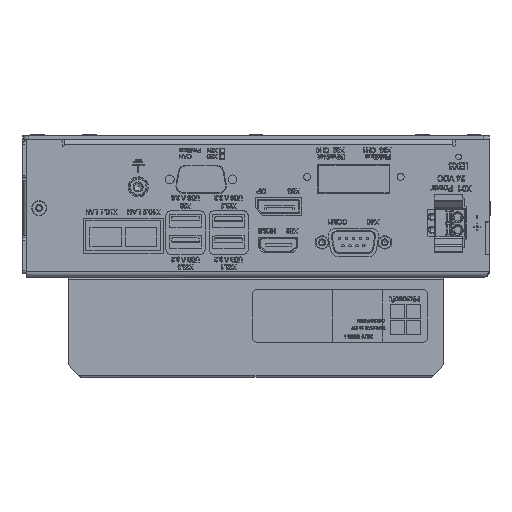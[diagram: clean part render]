
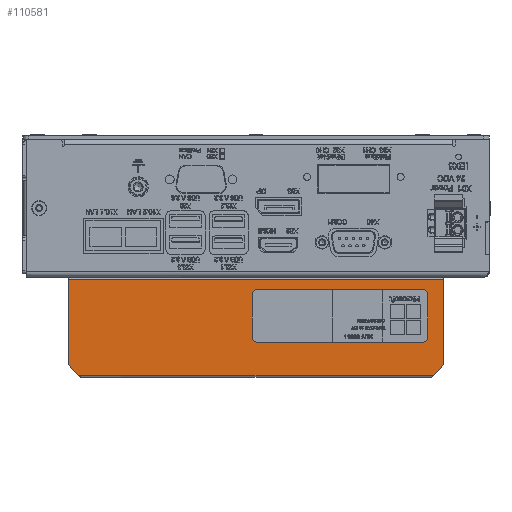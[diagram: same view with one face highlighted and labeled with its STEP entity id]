
A CAD part, front view. The second image highlights one B-rep face of the part: STEP entity #110581.
In plain terms, the highlighted planar face has unit normal (0, -1, 0).
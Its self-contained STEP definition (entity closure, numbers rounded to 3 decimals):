
#1646=FACE_BOUND('',#15456,.T.);
#3770=PLANE('',#117001);
#9152=FACE_OUTER_BOUND('',#15455,.T.);
#15455=EDGE_LOOP('',(#84791,#84792,#84793,#84794,#84795,#84796));
#15456=EDGE_LOOP('',(#84797,#84798,#84799,#84800,#84801,#84802,#84803,#84804));
#26806=LINE('',#165230,#37763);
#27250=LINE('',#167983,#38207);
#27253=LINE('',#167991,#38210);
#27257=LINE('',#168002,#38214);
#27261=LINE('',#168017,#38218);
#27290=LINE('',#168124,#38247);
#27324=LINE('',#168242,#38281);
#27392=LINE('',#168396,#38349);
#27394=LINE('',#168400,#38351);
#27395=LINE('',#168401,#38352);
#37763=VECTOR('',#130297,10.);
#38207=VECTOR('',#131049,10.);
#38210=VECTOR('',#131058,10.);
#38214=VECTOR('',#131072,10.);
#38218=VECTOR('',#131086,10.);
#38247=VECTOR('',#131173,10.);
#38281=VECTOR('',#131269,38.25);
#38349=VECTOR('',#131395,10.);
#38351=VECTOR('',#131399,10.);
#38352=VECTOR('',#131400,38.25);
#44715=CIRCLE('',#116900,2.);
#44716=CIRCLE('',#116903,2.);
#44717=CIRCLE('',#116905,2.);
#44718=CIRCLE('',#116908,2.);
#49688=VERTEX_POINT('',#165227);
#49689=VERTEX_POINT('',#165229);
#50069=VERTEX_POINT('',#167980);
#50070=VERTEX_POINT('',#167982);
#50071=VERTEX_POINT('',#167986);
#50072=VERTEX_POINT('',#167990);
#50073=VERTEX_POINT('',#167996);
#50074=VERTEX_POINT('',#168000);
#50076=VERTEX_POINT('',#168007);
#50080=VERTEX_POINT('',#168015);
#50127=VERTEX_POINT('',#168120);
#50129=VERTEX_POINT('',#168123);
#50182=VERTEX_POINT('',#168240);
#50240=VERTEX_POINT('',#168399);
#61901=EDGE_CURVE('',#49689,#49688,#26806,.T.);
#62521=EDGE_CURVE('',#50070,#50069,#27250,.T.);
#62523=EDGE_CURVE('',#49688,#50071,#44715,.T.);
#62525=EDGE_CURVE('',#50071,#50072,#27253,.T.);
#62527=EDGE_CURVE('',#50072,#50070,#44716,.T.);
#62529=EDGE_CURVE('',#50069,#50073,#44717,.T.);
#62531=EDGE_CURVE('',#50073,#50074,#27257,.T.);
#62532=EDGE_CURVE('',#50074,#49689,#44718,.T.);
#62538=EDGE_CURVE('',#50076,#50080,#27261,.T.);
#62586=EDGE_CURVE('',#50129,#50127,#27290,.T.);
#62641=EDGE_CURVE('',#50080,#50182,#27324,.T.);
#62727=EDGE_CURVE('',#50127,#50076,#27392,.T.);
#62729=EDGE_CURVE('',#50240,#50182,#27394,.T.);
#62730=EDGE_CURVE('',#50240,#50129,#27395,.T.);
#84791=ORIENTED_EDGE('',*,*,#62538,.T.);
#84792=ORIENTED_EDGE('',*,*,#62641,.T.);
#84793=ORIENTED_EDGE('',*,*,#62729,.F.);
#84794=ORIENTED_EDGE('',*,*,#62730,.T.);
#84795=ORIENTED_EDGE('',*,*,#62586,.T.);
#84796=ORIENTED_EDGE('',*,*,#62727,.T.);
#84797=ORIENTED_EDGE('',*,*,#62521,.T.);
#84798=ORIENTED_EDGE('',*,*,#62529,.T.);
#84799=ORIENTED_EDGE('',*,*,#62531,.T.);
#84800=ORIENTED_EDGE('',*,*,#62532,.T.);
#84801=ORIENTED_EDGE('',*,*,#61901,.T.);
#84802=ORIENTED_EDGE('',*,*,#62523,.T.);
#84803=ORIENTED_EDGE('',*,*,#62525,.T.);
#84804=ORIENTED_EDGE('',*,*,#62527,.T.);
#110581=ADVANCED_FACE('',(#9152,#1646),#3770,.T.);
#116900=AXIS2_PLACEMENT_3D('',#167987,#131053,#131054);
#116903=AXIS2_PLACEMENT_3D('',#167994,#131062,#131063);
#116905=AXIS2_PLACEMENT_3D('',#167998,#131067,#131068);
#116908=AXIS2_PLACEMENT_3D('',#168004,#131075,#131076);
#117001=AXIS2_PLACEMENT_3D('',#168398,#131397,#131398);
#130297=DIRECTION('',(-1.,0.,0.));
#131049=DIRECTION('',(1.,0.,0.));
#131053=DIRECTION('center_axis',(0.,1.,0.));
#131054=DIRECTION('ref_axis',(1.,0.,0.));
#131058=DIRECTION('',(0.,0.,1.));
#131062=DIRECTION('center_axis',(0.,1.,0.));
#131063=DIRECTION('ref_axis',(0.,0.,
-1.));
#131067=DIRECTION('center_axis',(0.,1.,0.));
#131068=DIRECTION('ref_axis',(-1.,0.,0.));
#131072=DIRECTION('',(0.,0.,-1.));
#131075=DIRECTION('center_axis',(0.,1.,0.));
#131076=DIRECTION('ref_axis',(0.,0.,
1.));
#131086=DIRECTION('',(0.707,0.,0.707));
#131173=DIRECTION('',(0.707,0.,-0.707));
#131269=DIRECTION('',(0.,0.,1.));
#131395=DIRECTION('',(1.,0.,0.));
#131397=DIRECTION('center_axis',(0.,-1.,0.));
#131398=DIRECTION('ref_axis',(-1.,0.,0.));
#131399=DIRECTION('',(1.,0.,0.));
#131400=DIRECTION('',(0.,0.,-1.));
#165227=CARTESIAN_POINT('',(0.5,-50.,-26.));
#165229=CARTESIAN_POINT('',(66.5,-50.,-26.));
#165230=CARTESIAN_POINT('',(-37.25,-50.,-26.));
#167980=CARTESIAN_POINT('',(66.5,-50.,-5.));
#167982=CARTESIAN_POINT('',(0.5,-50.,-5.));
#167983=CARTESIAN_POINT('',(-4.25,-50.,-5.));
#167986=CARTESIAN_POINT('',(-1.5,-50.,-24.));
#167987=CARTESIAN_POINT('Origin',(0.5,-50.,-24.));
#167990=CARTESIAN_POINT('',(-1.5,-50.,-7.));
#167991=CARTESIAN_POINT('',(-1.5,-50.,-23.125));
#167994=CARTESIAN_POINT('Origin',(0.5,-50.,-7.));
#167996=CARTESIAN_POINT('',(68.5,-50.,-7.));
#167998=CARTESIAN_POINT('Origin',(66.5,-50.,-7.));
#168000=CARTESIAN_POINT('',(68.5,-50.,-24.));
#168002=CARTESIAN_POINT('',(68.5,-50.,-31.625));
#168004=CARTESIAN_POINT('Origin',(66.5,-50.,-24.));
#168007=CARTESIAN_POINT('',(70.75,-50.,-39.25));
#168015=CARTESIAN_POINT('',(75.,-50.,-35.));
#168017=CARTESIAN_POINT('',(33.938,-50.,-76.063));
#168120=CARTESIAN_POINT('',(-70.75,-50.,-39.25));
#168123=CARTESIAN_POINT('',(-75.,-50.,-35.));
#168124=CARTESIAN_POINT('',(-73.937,-50.,-36.062));
#168240=CARTESIAN_POINT('',(75.,-50.,-1.));
#168242=CARTESIAN_POINT('',(75.,-50.,-39.25));
#168396=CARTESIAN_POINT('',(-75.,-50.,-39.25));
#168398=CARTESIAN_POINT('Origin',(-75.,-50.,-39.25));
#168399=CARTESIAN_POINT('',(-75.,-50.,-1.));
#168400=CARTESIAN_POINT('',(-75.,-50.,-1.));
#168401=CARTESIAN_POINT('',(-75.,-50.,-1.));
